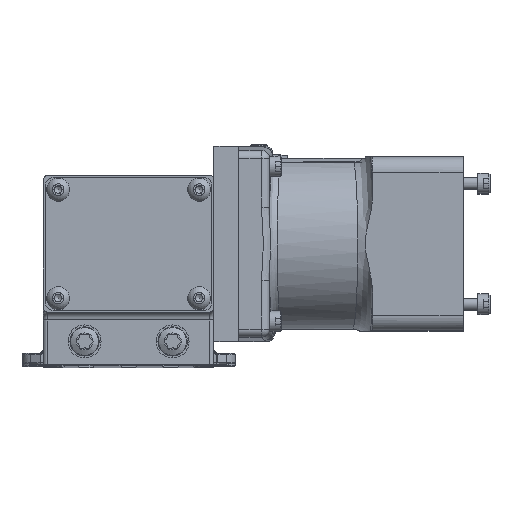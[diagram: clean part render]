
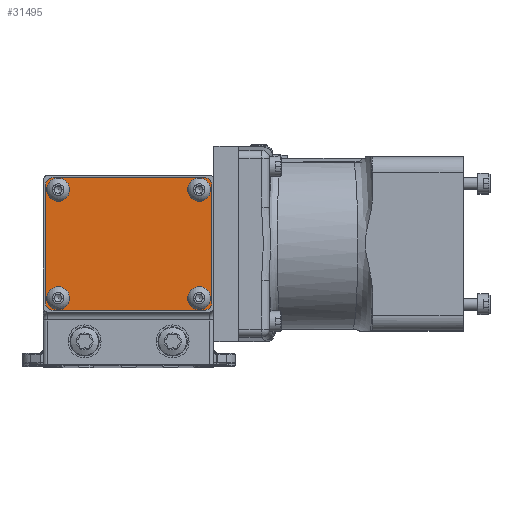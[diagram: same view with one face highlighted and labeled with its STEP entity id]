
A CAD part, top view. The second image highlights one B-rep face of the part: STEP entity #31495.
In plain terms, the highlighted planar face has unit normal (0, 0, 1).
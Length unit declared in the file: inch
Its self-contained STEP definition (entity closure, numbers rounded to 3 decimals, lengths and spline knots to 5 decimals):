
#69 = CIRCLE ( 'NONE', #36218, 0.125 ) ;
#1114 = CARTESIAN_POINT ( 'NONE',  ( -0.95049, 0.875, 1.0625 ) ) ;
#1185 = DIRECTION ( 'NONE',  ( 0., 1., 0. ) ) ;
#1675 = LINE ( 'NONE', #34890, #18700 ) ;
#1992 = DIRECTION ( 'NONE',  ( 0., 1., 0. ) ) ;
#2706 = FACE_BOUND ( 'NONE', #17692, .T. ) ;
#3713 = AXIS2_PLACEMENT_3D ( 'NONE', #5609, #45568, #1992 ) ;
#4752 = ORIENTED_EDGE ( 'NONE', *, *, #23004, .F. ) ;
#4872 = VERTEX_POINT ( 'NONE', #41456 ) ;
#5057 = EDGE_LOOP ( 'NONE', ( #28397 ) ) ;
#5103 = ORIENTED_EDGE ( 'NONE', *, *, #9829, .T. ) ;
#5600 = CARTESIAN_POINT ( 'NONE',  ( 1.34375, -1.06875, 1.0625 ) ) ;
#5609 = CARTESIAN_POINT ( 'NONE',  ( 1.21875, -0.94375, 1.0625 ) ) ;
#6060 = DIRECTION ( 'NONE',  ( 0., 1., 0. ) ) ;
#6096 = VECTOR ( 'NONE', #33997, 39.37008 ) ;
#6337 = FACE_BOUND ( 'NONE', #5057, .T. ) ;
#7079 = VERTEX_POINT ( 'NONE', #33399 ) ;
#7872 = CARTESIAN_POINT ( 'NONE',  ( 1.32451, -0.875, 1.0625 ) ) ;
#7960 = LINE ( 'NONE', #8174, #31746 ) ;
#8028 = LINE ( 'NONE', #41214, #6096 ) ;
#8174 = CARTESIAN_POINT ( 'NONE',  ( -1.34375, 1.06875, 1.0625 ) ) ;
#8404 = CARTESIAN_POINT ( 'NONE',  ( -1.21875, -0.94375, 1.0625 ) ) ;
#8533 = AXIS2_PLACEMENT_3D ( 'NONE', #5600, #10189, #6060 ) ;
#8571 = EDGE_CURVE ( 'NONE', #7079, #13566, #8028, .T. ) ;
#9204 = VERTEX_POINT ( 'NONE', #44474 ) ;
#9403 = AXIS2_PLACEMENT_3D ( 'NONE', #8404, #23091, #1185 ) ;
#9452 = CARTESIAN_POINT ( 'NONE',  ( -1.1375, 0.875, 1.0625 ) ) ;
#9548 = DIRECTION ( 'NONE',  ( 0., 0., 1. ) ) ;
#9829 = EDGE_CURVE ( 'NONE', #26869, #7079, #69, .T. ) ;
#10182 = DIRECTION ( 'NONE',  ( 0., 1., 0. ) ) ;
#10189 = DIRECTION ( 'NONE',  ( 0., 0., 1. ) ) ;
#11999 = CARTESIAN_POINT ( 'NONE',  ( 1.21875, 1.06875, 1.0625 ) ) ;
#12124 = CARTESIAN_POINT ( 'NONE',  ( 1.1375, 0.875, 1.0625 ) ) ;
#12142 = CARTESIAN_POINT ( 'NONE',  ( 1.32451, 0.875, 1.0625 ) ) ;
#13263 = VERTEX_POINT ( 'NONE', #11999 ) ;
#13566 = VERTEX_POINT ( 'NONE', #32168 ) ;
#14071 = DIRECTION ( 'NONE',  ( 0., 1., 0. ) ) ;
#15049 = ORIENTED_EDGE ( 'NONE', *, *, #38502, .F. ) ;
#16489 = VERTEX_POINT ( 'NONE', #12142 ) ;
#17030 = CIRCLE ( 'NONE', #24741, 0.18701 ) ;
#17056 = CIRCLE ( 'NONE', #9403, 0.125 ) ;
#17315 = CARTESIAN_POINT ( 'NONE',  ( 1.21875, 0.94375, 1.0625 ) ) ;
#17692 = EDGE_LOOP ( 'NONE', ( #15049 ) ) ;
#17751 = CARTESIAN_POINT ( 'NONE',  ( -0.95049, -0.875, 1.0625 ) ) ;
#18014 = DIRECTION ( 'NONE',  ( 0., 0., 1. ) ) ;
#18025 = EDGE_CURVE ( 'NONE', #28129, #28129, #17030, .T. ) ;
#18666 = AXIS2_PLACEMENT_3D ( 'NONE', #17315, #18014, #21179 ) ;
#18699 = EDGE_CURVE ( 'NONE', #13566, #45915, #17056, .T. ) ;
#18700 = VECTOR ( 'NONE', #27411, 39.37008 ) ;
#20512 = DIRECTION ( 'NONE',  ( 0., 0., 1. ) ) ;
#20564 = CARTESIAN_POINT ( 'NONE',  ( 1.34375, -1.06875, 1.0625 ) ) ;
#21179 = DIRECTION ( 'NONE',  ( 0., 1., 0. ) ) ;
#21534 = LINE ( 'NONE', #20564, #39848 ) ;
#22109 = CIRCLE ( 'NONE', #25178, 0.18701 ) ;
#23004 = EDGE_CURVE ( 'NONE', #42258, #42258, #27775, .T. ) ;
#23091 = DIRECTION ( 'NONE',  ( 0., 0., 1. ) ) ;
#23312 = ORIENTED_EDGE ( 'NONE', *, *, #24687, .T. ) ;
#23518 = ORIENTED_EDGE ( 'NONE', *, *, #26291, .T. ) ;
#24084 = CARTESIAN_POINT ( 'NONE',  ( -1.21875, 1.06875, 1.0625 ) ) ;
#24252 = EDGE_CURVE ( 'NONE', #4872, #13263, #30968, .T. ) ;
#24363 = PLANE ( 'NONE',  #8533 ) ;
#24467 = ORIENTED_EDGE ( 'NONE', *, *, #8571, .T. ) ;
#24502 = EDGE_CURVE ( 'NONE', #13263, #26869, #7960, .T. ) ;
#24687 = EDGE_CURVE ( 'NONE', #45915, #45599, #1675, .T. ) ;
#24730 = AXIS2_PLACEMENT_3D ( 'NONE', #9452, #20512, #27741 ) ;
#24741 = AXIS2_PLACEMENT_3D ( 'NONE', #38412, #9548, #25358 ) ;
#25178 = AXIS2_PLACEMENT_3D ( 'NONE', #12124, #26822, #41513 ) ;
#25358 = DIRECTION ( 'NONE',  ( 1., 0., 0. ) ) ;
#26153 = VERTEX_POINT ( 'NONE', #7872 ) ;
#26291 = EDGE_CURVE ( 'NONE', #45599, #9204, #42846, .T. ) ;
#26696 = EDGE_LOOP ( 'NONE', ( #44595 ) ) ;
#26822 = DIRECTION ( 'NONE',  ( 0., 0., 1. ) ) ;
#26869 = VERTEX_POINT ( 'NONE', #24084 ) ;
#27411 = DIRECTION ( 'NONE',  ( 1., 0., 0. ) ) ;
#27741 = DIRECTION ( 'NONE',  ( 1., 0., 0. ) ) ;
#27743 = FACE_BOUND ( 'NONE', #26696, .T. ) ;
#27775 = CIRCLE ( 'NONE', #24730, 0.18701 ) ;
#27860 = ORIENTED_EDGE ( 'NONE', *, *, #44456, .T. ) ;
#28129 = VERTEX_POINT ( 'NONE', #17751 ) ;
#28219 = FACE_BOUND ( 'NONE', #44554, .T. ) ;
#28397 = ORIENTED_EDGE ( 'NONE', *, *, #43338, .F. ) ;
#29156 = AXIS2_PLACEMENT_3D ( 'NONE', #37356, #44352, #30150 ) ;
#29198 = CIRCLE ( 'NONE', #29156, 0.18701 ) ;
#29619 = DIRECTION ( 'NONE',  ( -1., 0., 0. ) ) ;
#30150 = DIRECTION ( 'NONE',  ( 1., 0., 0. ) ) ;
#30968 = CIRCLE ( 'NONE', #18666, 0.125 ) ;
#31495 = ADVANCED_FACE ( 'NONE', ( #27743, #28219, #2706, #6337, #42437 ), #24363, .T. ) ;
#31746 = VECTOR ( 'NONE', #29619, 39.37008 ) ;
#32168 = CARTESIAN_POINT ( 'NONE',  ( -1.34375, -0.94375, 1.0625 ) ) ;
#33399 = CARTESIAN_POINT ( 'NONE',  ( -1.34375, 0.94375, 1.0625 ) ) ;
#33550 = CARTESIAN_POINT ( 'NONE',  ( -1.21875, -1.06875, 1.0625 ) ) ;
#33997 = DIRECTION ( 'NONE',  ( 0., -1., 0. ) ) ;
#34283 = CARTESIAN_POINT ( 'NONE',  ( -1.21875, 0.94375, 1.0625 ) ) ;
#34890 = CARTESIAN_POINT ( 'NONE',  ( -1.34375, -1.06875, 1.0625 ) ) ;
#36218 = AXIS2_PLACEMENT_3D ( 'NONE', #34283, #43155, #10182 ) ;
#37356 = CARTESIAN_POINT ( 'NONE',  ( 1.1375, -0.875, 1.0625 ) ) ;
#38412 = CARTESIAN_POINT ( 'NONE',  ( -1.1375, -0.875, 1.0625 ) ) ;
#38502 = EDGE_CURVE ( 'NONE', #26153, #26153, #29198, .T. ) ;
#39848 = VECTOR ( 'NONE', #14071, 39.37008 ) ;
#40634 = ORIENTED_EDGE ( 'NONE', *, *, #24252, .T. ) ;
#41030 = ORIENTED_EDGE ( 'NONE', *, *, #24502, .T. ) ;
#41214 = CARTESIAN_POINT ( 'NONE',  ( -1.34375, -1.06875, 1.0625 ) ) ;
#41456 = CARTESIAN_POINT ( 'NONE',  ( 1.34375, 0.94375, 1.0625 ) ) ;
#41513 = DIRECTION ( 'NONE',  ( 1., 0., 0. ) ) ;
#42258 = VERTEX_POINT ( 'NONE', #1114 ) ;
#42437 = FACE_OUTER_BOUND ( 'NONE', #44701, .T. ) ;
#42846 = CIRCLE ( 'NONE', #3713, 0.125 ) ;
#43155 = DIRECTION ( 'NONE',  ( 0., 0., 1. ) ) ;
#43338 = EDGE_CURVE ( 'NONE', #16489, #16489, #22109, .T. ) ;
#44352 = DIRECTION ( 'NONE',  ( 0., 0., 1. ) ) ;
#44456 = EDGE_CURVE ( 'NONE', #9204, #4872, #21534, .T. ) ;
#44474 = CARTESIAN_POINT ( 'NONE',  ( 1.34375, -0.94375, 1.0625 ) ) ;
#44494 = CARTESIAN_POINT ( 'NONE',  ( 1.21875, -1.06875, 1.0625 ) ) ;
#44554 = EDGE_LOOP ( 'NONE', ( #4752 ) ) ;
#44595 = ORIENTED_EDGE ( 'NONE', *, *, #18025, .F. ) ;
#44659 = ORIENTED_EDGE ( 'NONE', *, *, #18699, .T. ) ;
#44701 = EDGE_LOOP ( 'NONE', ( #27860, #40634, #41030, #5103, #24467, #44659, #23312, #23518 ) ) ;
#45568 = DIRECTION ( 'NONE',  ( 0., 0., 1. ) ) ;
#45599 = VERTEX_POINT ( 'NONE', #44494 ) ;
#45915 = VERTEX_POINT ( 'NONE', #33550 ) ;
